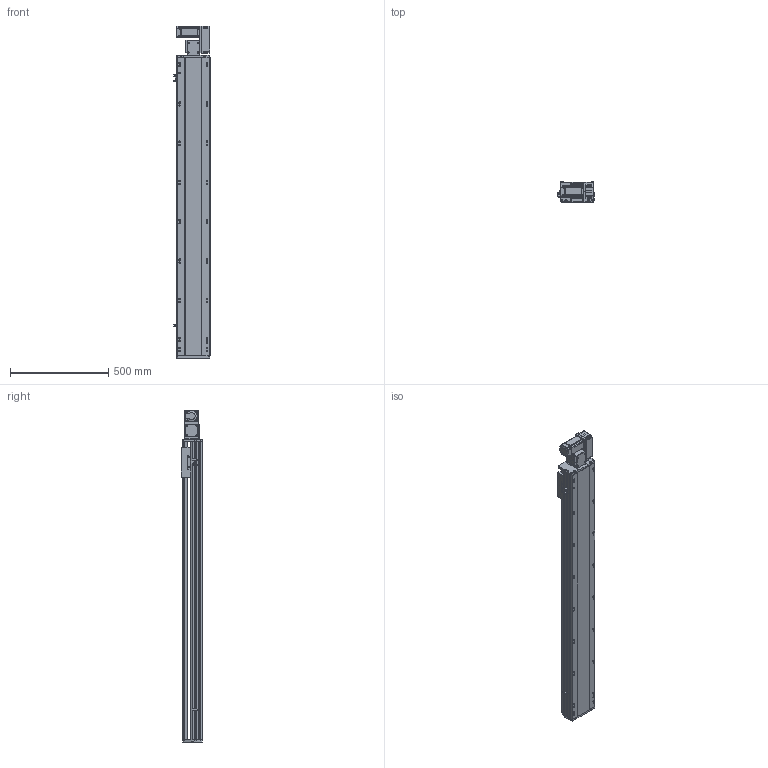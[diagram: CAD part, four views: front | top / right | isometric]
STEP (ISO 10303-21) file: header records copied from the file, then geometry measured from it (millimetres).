
FILE_DESCRIPTION (( 'STEP AP214' ), '1' );
FILE_NAME ('RTB17S-XX-1250-R-M40-C4.STEP', '2025-12-11T07:39:34', ( '' ), ( '' ), 'SwSTEP 2.0', 'SolidWorks 2018', '' );
FILE_SCHEMA (( 'AUTOMOTIVE_DESIGN' ));
Length unit declared in the file: millimetre
Products named in the file (14): RTB17-R-011菁釱^RTB17S-XX-XX-R-M40-C4; RTB14-L-018P^RTB17S-R-々湍釱蚾饜-400W_RTB17S-XX-XX-R-M40-C4; RTB17S-L-001耜醱啣^RTB17S-XX-XX-R-M40-C4; RTB17S-R-々湍釱蚾饜-400W^RTB17S-XX-XX-R-M40-C4; OMRON EE-SX672 传感器^RTB17S-XX-XX-R-M40-C4; RTB14-L-008-M20--萇儂啣^RTB17S-R-々湍釱蚾饜-400W_RTB17S-XX-XX-R-M40-C4; RTB14-L-005P--轴承塑胶压盖^RTB17S-R-皮带座装配-400W_RTB17S-XX-XX-R-M40-C4; RTB17S-XX-1250-R-M40-C4; RTH13-BL-012覜茼え俋离^RTB17S-XX-XX-R-M40-C4; 400W侜督萇儂^RTB17S-XX-XX-R-M40-C4; RTB17S-L-007奻裔^RTB17S-XX-XX-R-M40-C4; RTB17S-L-014-T20--々湍釱^RTB17S-R-々湍釱蚾饜-400W_RTB17S-XX-XX-R-M40-C4; RTB17S-L-004佪裝蹟譫蟀諉釱^RTB17S-XX-XX-R-M40-C4; RTB14-L-017P^RTB17S-R-々湍釱蚾饜-400W_RTB17S-XX-XX-R-M40-C4
Assembly tree (16 placements, depth 3):
  RTB17S-XX-1250-R-M40-C4
    RTB17-R-011菁釱^RTB17S-XX-XX-R-M40-C4
    RTB17S-L-007奻裔^RTB17S-XX-XX-R-M40-C4
    OMRON EE-SX672 传感器^RTB17S-XX-XX-R-M40-C4  x3
    RTB17S-L-001耜醱啣^RTB17S-XX-XX-R-M40-C4
    400W侜督萇儂^RTB17S-XX-XX-R-M40-C4
    RTB17S-L-004佪裝蹟譫蟀諉釱^RTB17S-XX-XX-R-M40-C4
    RTH13-BL-012覜茼え俋离^RTB17S-XX-XX-R-M40-C4
    RTB17S-R-々湍釱蚾饜-400W^RTB17S-XX-XX-R-M40-C4
      RTB17S-L-014-T20--々湍釱^RTB17S-R-々湍釱蚾饜-400W_RTB17S-XX-XX-R-M40-C4
      RTB14-L-005P--轴承塑胶压盖^RTB17S-R-皮带座装配-400W_RTB17S-XX-XX-R-M40-C4
      RTB14-L-008-M20--萇儂啣^RTB17S-R-々湍釱蚾饜-400W_RTB17S-XX-XX-R-M40-C4
      RTB14-L-017P^RTB17S-R-々湍釱蚾饜-400W_RTB17S-XX-XX-R-M40-C4  x2
      RTB14-L-018P^RTB17S-R-々湍釱蚾饜-400W_RTB17S-XX-XX-R-M40-C4
Bounding box: 183.5 x 108 x 1691 mm (x, y, z)
Volume: 14407850.3 mm3; surface area: 1722186.3 mm2
Topology: 15 solids, 15 shells, 2237 faces, 6195 edges, 4041 vertices
Faces by surface type: plane 1072, cylinder 717, bspline 301, cone 139, torus 8
Entity records: 64169 total; most frequent: CARTESIAN_POINT 18000, ORIENTED_EDGE 9234, DIRECTION 8576, EDGE_CURVE 4617, VERTEX_POINT 3029, AXIS2_PLACEMENT_3D 2959, VECTOR 2658, LINE 2658
